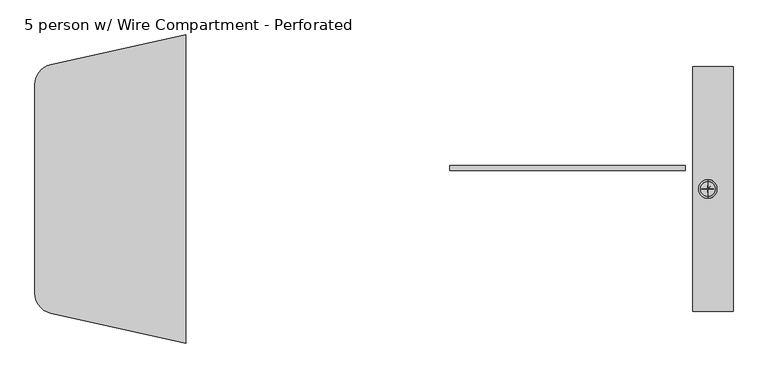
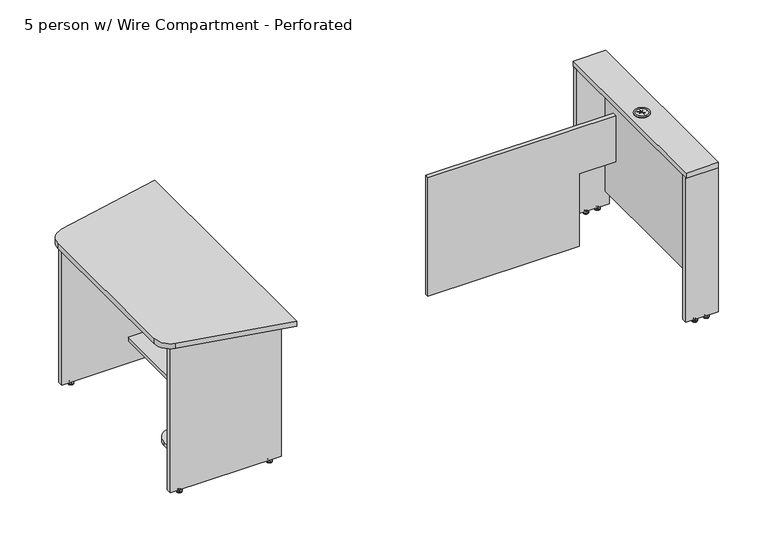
"""IFC4 building model written with IfcOpenShell, lengths in millimetres: furniture geometry, Nova Solutions - Collaboration Table - Boat_4-6 person : 5 person w/ Wire Compartment - Perforated."""

from ifc_helpers import new_model, si_unit, point, frame, frame_2d, origin, place, context, project, spatial, polyline, circle_curve, ellipse_curve, trimmed, segment, composite_curve, outline, extrude, source, transform, mapped, element, save
from ifc_brep_helpers import plane_surface, cylinder_surface, revolved_surface, advanced_brep


def furniture_5_person_w_wire_compartment_perforated_70c40dab(model_context):
    return source(origin(), model_context, "Body", "SolidModel", [
        extrude(outline(polyline([(430.1, 736.3), (430.1, 145.5), (-259.1, 145.5), (-259.1, 507.4), (-430.1, 507.4), (-430.1, 736.3), (430.1, 736.3)])), frame((-1069.3498676, 0.0, 0.0), z_axis=(1.0, 0.0, 0.0), x_axis=(0.0, 1.0, 0.0)), (0.0, 0.0, 1.0), 19.2),
        extrude(outline(composite_curve([segment(polyline([(-994.8498676, 430.1), (-994.8498676, -430.1), (-1438.0123676, -430.1), (-1438.0123676, -290.3)]), True, "CONTINUOUS"), segment(trimmed(circle_curve(frame_2d((-1361.8123676, -290.3)), 76.2), [point((-1438.0123676, -290.3))], [point((-1361.8123676, -214.1))], False, "CARTESIAN"), True, "CONTINUOUS"), segment(polyline([(-1361.8123676, -214.1), (-1267.3498676, -214.1)]), True, "CONTINUOUS"), segment(trimmed(circle_curve(frame_2d((-1267.3498676, -137.9)), 76.2), [point((-1267.3498676, -214.1))], [point((-1191.1498676, -137.9))], True, "CARTESIAN"), True, "CONTINUOUS"), segment(polyline([(-1191.1498676, -137.9), (-1191.1498676, 430.1), (-994.8498676, 430.1)]), True, "CONTINUOUS")], self_intersect=False)), frame((0.0, 0.0, 126.3), z_axis=(0.0, 0.0, 1.0), x_axis=(1.0, 0.0, 0.0)), (0.0, 0.0, 1.0), 19.2),
        advanced_brep(
        [(-1455.4358051, 449.6276506, 11.1125), (-1455.4358051, 442.95, 11.1125), (-1455.4358051, 436.2723494, 11.1125), (-1455.4358051, 449.6276506, 9.525), (-1455.4358051, 436.2723494, 9.525), (-1455.4358051, 454.8355135, 4.7748687), (-1455.4358051, 431.0644865, 4.7748687), (-1455.4358051, 455.6966506, 3.989419), (-1455.4358051, 430.2033494, 3.989419), (-1455.4358051, 455.6966506, 3.175), (-1455.4358051, 430.2033494, 3.175), (-1455.4358051, 454.8459119, 0.0), (-1455.4358051, 431.0540881, 0.0), (-1455.4358051, 442.95, 0.0)],
        [
            (0, 1),
            (1, 2),
            (2, 0, circle_curve(frame((-1455.4358051, 442.95, 11.1125), z_axis=(0.0, 0.0, 1.0), x_axis=(0.0, -1.0, 0.0)), 6.6776506)),
            (0, 2, circle_curve(frame((-1455.4358051, 442.95, 11.1125), z_axis=(0.0, 0.0, 1.0), x_axis=(0.0, -1.0, 0.0)), 6.6776506)),
            (3, 0),
            (2, 4),
            (4, 3, circle_curve(frame((-1455.4358051, 442.95, 9.525), z_axis=(0.0, 0.0, 1.0), x_axis=(0.0, -1.0, 0.0)), 6.6776506)),
            (3, 4, circle_curve(frame((-1455.4358051, 442.95, 9.525), z_axis=(0.0, 0.0, 1.0), x_axis=(0.0, -1.0, 0.0)), 6.6776506)),
            (5, 3, circle_curve(frame((-1455.4358051, 455.8820627, 11.1521822), z_axis=(-1.0, 0.0, 0.0), x_axis=(0.0, -1.0, 0.0)), 6.462615)),
            (4, 6, circle_curve(frame((-1455.4358051, 430.0179373, 11.1521822), z_axis=(-1.0, 0.0, 0.0), x_axis=(0.0, 1.0, 0.0)), 6.462615)),
            (6, 5, circle_curve(frame((-1455.4358051, 442.95, 4.7748687), z_axis=(0.0, 0.0, 1.0), x_axis=(0.0, -1.0, 0.0)), 11.8855135)),
            (5, 6, circle_curve(frame((-1455.4358051, 442.95, 4.7748687), z_axis=(0.0, 0.0, 1.0), x_axis=(0.0, -1.0, 0.0)), 11.8855135)),
            (7, 5, circle_curve(frame((-1455.4358051, 454.6624632, 3.7203591), z_axis=(1.0, 0.0, 0.0), x_axis=(0.0, -1.0, 0.0)), 1.0686145)),
            (6, 8, circle_curve(frame((-1455.4358051, 431.2375368, 3.7203591), z_axis=(1.0, 0.0, 0.0), x_axis=(0.0, 1.0, 0.0)), 1.0686145)),
            (8, 7, circle_curve(frame((-1455.4358051, 442.95, 3.989419), z_axis=(0.0, 0.0, 1.0), x_axis=(0.0, -1.0, 0.0)), 12.7466506)),
            (7, 8, circle_curve(frame((-1455.4358051, 442.95, 3.989419), z_axis=(0.0, 0.0, 1.0), x_axis=(0.0, -1.0, 0.0)), 12.7466506)),
            (9, 7),
            (8, 10),
            (10, 9, circle_curve(frame((-1455.4358051, 442.95, 3.175), z_axis=(0.0, 0.0, 1.0), x_axis=(0.0, -1.0, 0.0)), 12.7466506)),
            (9, 10, circle_curve(frame((-1455.4358051, 442.95, 3.175), z_axis=(0.0, 0.0, 1.0), x_axis=(0.0, -1.0, 0.0)), 12.7466506)),
            (11, 9),
            (10, 12),
            (12, 11, circle_curve(frame((-1455.4358051, 442.95, 0.0), z_axis=(0.0, 0.0, 1.0), x_axis=(0.0, -1.0, 0.0)), 11.8959119)),
            (11, 12, circle_curve(frame((-1455.4358051, 442.95, 0.0), z_axis=(0.0, 0.0, 1.0), x_axis=(0.0, -1.0, 0.0)), 11.8959119)),
            (13, 11),
            (12, 13),
        ],
        [
            plane_surface(frame((-1455.4358051, 442.95, 11.1125), z_axis=(0.0, 0.0, 1.0), x_axis=(0.0, -1.0, 0.0))),
            cylinder_surface(frame((-1455.4358051, 442.95, 43.2095994), z_axis=(0.0, 0.0, -1.0), x_axis=(0.0, -1.0, 0.0)), 6.6776506),
            revolved_surface(trimmed(ellipse_curve(frame((-1455.4358051, 430.0179373, 11.1521822), z_axis=(-1.0, 0.0, 0.0), x_axis=(0.0, 1.0, 0.0)), 6.462615, 6.462615), [point((-1455.4358051, 436.2723494, 9.525))], [point((-1455.4358051, 431.0644865, 4.7748687))], True, "CARTESIAN"), (-1455.4358051, 442.95, 43.2095994), (0.0, 0.0, -1.0)),
            revolved_surface(trimmed(ellipse_curve(frame((-1455.4358051, 431.2375368, 3.7203591), z_axis=(1.0, 0.0, 0.0), x_axis=(0.0, 1.0, 0.0)), 1.0686145, 1.0686145), [point((-1455.4358051, 431.0644865, 4.7748687))], [point((-1455.4358051, 430.2033494, 3.989419))], True, "CARTESIAN"), (-1455.4358051, 442.95, 43.2095994), (0.0, 0.0, -1.0)),
            cylinder_surface(frame((-1455.4358051, 442.95, 43.2095994), z_axis=(0.0, 0.0, -1.0), x_axis=(0.0, -1.0, 0.0)), 12.7466506),
            revolved_surface(polyline([(-1455.4358051, 430.2033494, 3.175), (-1455.4358051, 431.0540881, 0.0)]), (-1455.4358051, 442.95, 43.2095994), (0.0, 0.0, -1.0)),
            plane_surface(frame((-1455.4358051, 442.95, 0.0), z_axis=(0.0, 0.0, -1.0), x_axis=(0.0, -1.0, 0.0))),
        ],
        [
            (0, [[1, 2, 3]]),
            (0, [[-2, -1, 4]]),
            (1, [[5, -3, 6, 7]]),
            (1, [[-6, -4, -5, 8]]),
            (2, [[9, -7, 10, 11]]),
            (2, [[-10, -8, -9, 12]]),
            (3, [[13, -11, 14, 15]]),
            (3, [[-14, -12, -13, 16]]),
            (4, [[17, -15, 18, 19]]),
            (4, [[-18, -16, -17, 20]]),
            (5, [[21, -19, 22, 23]]),
            (5, [[-22, -20, -21, 24]]),
            (6, [[25, -23, 26]]),
            (6, [[-26, -24, -25]]),
        ],
    ),
        advanced_brep(
        [(-1031.1639301, 449.6276506, 11.1125), (-1031.1639301, 442.95, 11.1125), (-1031.1639301, 436.2723494, 11.1125), (-1031.1639301, 449.6276506, 9.525), (-1031.1639301, 436.2723494, 9.525), (-1031.1639301, 454.8355135, 4.7748687), (-1031.1639301, 431.0644865, 4.7748687), (-1031.1639301, 455.6966506, 3.989419), (-1031.1639301, 430.2033494, 3.989419), (-1031.1639301, 455.6966506, 3.175), (-1031.1639301, 430.2033494, 3.175), (-1031.1639301, 454.8459119, 0.0), (-1031.1639301, 431.0540881, 0.0), (-1031.1639301, 442.95, 0.0)],
        [
            (0, 1),
            (1, 2),
            (2, 0, circle_curve(frame((-1031.1639301, 442.95, 11.1125), z_axis=(0.0, 0.0, 1.0), x_axis=(0.0, -1.0, 0.0)), 6.6776506)),
            (0, 2, circle_curve(frame((-1031.1639301, 442.95, 11.1125), z_axis=(0.0, 0.0, 1.0), x_axis=(0.0, -1.0, 0.0)), 6.6776506)),
            (3, 0),
            (2, 4),
            (4, 3, circle_curve(frame((-1031.1639301, 442.95, 9.525), z_axis=(0.0, 0.0, 1.0), x_axis=(0.0, -1.0, 0.0)), 6.6776506)),
            (3, 4, circle_curve(frame((-1031.1639301, 442.95, 9.525), z_axis=(0.0, 0.0, 1.0), x_axis=(0.0, -1.0, 0.0)), 6.6776506)),
            (5, 3, circle_curve(frame((-1031.1639301, 455.8820627, 11.1521822), z_axis=(-1.0, 0.0, 0.0), x_axis=(0.0, -1.0, 0.0)), 6.462615)),
            (4, 6, circle_curve(frame((-1031.1639301, 430.0179373, 11.1521822), z_axis=(-1.0, 0.0, 0.0), x_axis=(0.0, 1.0, 0.0)), 6.462615)),
            (6, 5, circle_curve(frame((-1031.1639301, 442.95, 4.7748687), z_axis=(0.0, 0.0, 1.0), x_axis=(0.0, -1.0, 0.0)), 11.8855135)),
            (5, 6, circle_curve(frame((-1031.1639301, 442.95, 4.7748687), z_axis=(0.0, 0.0, 1.0), x_axis=(0.0, -1.0, 0.0)), 11.8855135)),
            (7, 5, circle_curve(frame((-1031.1639301, 454.6624632, 3.7203591), z_axis=(1.0, 0.0, 0.0), x_axis=(0.0, -1.0, 0.0)), 1.0686145)),
            (6, 8, circle_curve(frame((-1031.1639301, 431.2375368, 3.7203591), z_axis=(1.0, 0.0, 0.0), x_axis=(0.0, 1.0, 0.0)), 1.0686145)),
            (8, 7, circle_curve(frame((-1031.1639301, 442.95, 3.989419), z_axis=(0.0, 0.0, 1.0), x_axis=(0.0, -1.0, 0.0)), 12.7466506)),
            (7, 8, circle_curve(frame((-1031.1639301, 442.95, 3.989419), z_axis=(0.0, 0.0, 1.0), x_axis=(0.0, -1.0, 0.0)), 12.7466506)),
            (9, 7),
            (8, 10),
            (10, 9, circle_curve(frame((-1031.1639301, 442.95, 3.175), z_axis=(0.0, 0.0, 1.0), x_axis=(0.0, -1.0, 0.0)), 12.7466506)),
            (9, 10, circle_curve(frame((-1031.1639301, 442.95, 3.175), z_axis=(0.0, 0.0, 1.0), x_axis=(0.0, -1.0, 0.0)), 12.7466506)),
            (11, 9),
            (10, 12),
            (12, 11, circle_curve(frame((-1031.1639301, 442.95, 0.0), z_axis=(0.0, 0.0, 1.0), x_axis=(0.0, -1.0, 0.0)), 11.8959119)),
            (11, 12, circle_curve(frame((-1031.1639301, 442.95, 0.0), z_axis=(0.0, 0.0, 1.0), x_axis=(0.0, -1.0, 0.0)), 11.8959119)),
            (13, 11),
            (12, 13),
        ],
        [
            plane_surface(frame((-1031.1639301, 442.95, 11.1125), z_axis=(0.0, 0.0, 1.0), x_axis=(0.0, -1.0, 0.0))),
            cylinder_surface(frame((-1031.1639301, 442.95, 43.2095994), z_axis=(0.0, 0.0, -1.0), x_axis=(0.0, -1.0, 0.0)), 6.6776506),
            revolved_surface(trimmed(ellipse_curve(frame((-1031.1639301, 430.0179373, 11.1521822), z_axis=(-1.0, 0.0, 0.0), x_axis=(0.0, 1.0, 0.0)), 6.462615, 6.462615), [point((-1031.1639301, 436.2723494, 9.525))], [point((-1031.1639301, 431.0644865, 4.7748687))], True, "CARTESIAN"), (-1031.1639301, 442.95, 43.2095994), (0.0, 0.0, -1.0)),
            revolved_surface(trimmed(ellipse_curve(frame((-1031.1639301, 431.2375368, 3.7203591), z_axis=(1.0, 0.0, 0.0), x_axis=(0.0, 1.0, 0.0)), 1.0686145, 1.0686145), [point((-1031.1639301, 431.0644865, 4.7748687))], [point((-1031.1639301, 430.2033494, 3.989419))], True, "CARTESIAN"), (-1031.1639301, 442.95, 43.2095994), (0.0, 0.0, -1.0)),
            cylinder_surface(frame((-1031.1639301, 442.95, 43.2095994), z_axis=(0.0, 0.0, -1.0), x_axis=(0.0, -1.0, 0.0)), 12.7466506),
            revolved_surface(polyline([(-1031.1639301, 430.2033494, 3.175), (-1031.1639301, 431.0540881, 0.0)]), (-1031.1639301, 442.95, 43.2095994), (0.0, 0.0, -1.0)),
            plane_surface(frame((-1031.1639301, 442.95, 0.0), z_axis=(0.0, 0.0, -1.0), x_axis=(0.0, -1.0, 0.0))),
        ],
        [
            (0, [[1, 2, 3]]),
            (0, [[-2, -1, 4]]),
            (1, [[5, -3, 6, 7]]),
            (1, [[-6, -4, -5, 8]]),
            (2, [[9, -7, 10, 11]]),
            (2, [[-10, -8, -9, 12]]),
            (3, [[13, -11, 14, 15]]),
            (3, [[-14, -12, -13, 16]]),
            (4, [[17, -15, 18, 19]]),
            (4, [[-18, -16, -17, 20]]),
            (5, [[21, -19, 22, 23]]),
            (5, [[-22, -20, -21, 24]]),
            (6, [[25, -23, 26]]),
            (6, [[-26, -24, -25]]),
        ],
    ),
        extrude(outline(polyline([(-982.1498676, 455.8), (-982.1498676, 430.1), (-1504.4498676, 430.1), (-1504.4498676, 455.8), (-982.1498676, 455.8)])), frame((0.0, 0.0, 15.6), z_axis=(0.0, 0.0, 1.0), x_axis=(1.0, 0.0, 0.0)), (0.0, 0.0, 1.0), 720.7),
        advanced_brep(
        [(-1455.4358051, -449.6276506, 11.1125), (-1455.4358051, -436.2723494, 11.1125), (-1455.4358051, -442.95, 11.1125), (-1455.4358051, -449.6276506, 9.525), (-1455.4358051, -436.2723494, 9.525), (-1455.4358051, -454.8355135, 4.7748687), (-1455.4358051, -431.0644865, 4.7748687), (-1455.4358051, -455.6966506, 3.989419), (-1455.4358051, -430.2033494, 3.989419), (-1455.4358051, -455.6966506, 3.175), (-1455.4358051, -430.2033494, 3.175), (-1455.4358051, -454.8459119, 0.0), (-1455.4358051, -431.0540881, 0.0), (-1455.4358051, -442.95, 0.0)],
        [
            (0, 1, circle_curve(frame((-1455.4358051, -442.95, 11.1125), z_axis=(0.0, 0.0, 1.0), x_axis=(0.0, 1.0, 0.0)), 6.6776506)),
            (1, 2),
            (2, 0),
            (1, 0, circle_curve(frame((-1455.4358051, -442.95, 11.1125), z_axis=(0.0, 0.0, 1.0), x_axis=(0.0, 1.0, 0.0)), 6.6776506)),
            (3, 4, circle_curve(frame((-1455.4358051, -442.95, 9.525), z_axis=(0.0, 0.0, 1.0), x_axis=(0.0, 1.0, 0.0)), 6.6776506)),
            (4, 1),
            (0, 3),
            (4, 3, circle_curve(frame((-1455.4358051, -442.95, 9.525), z_axis=(0.0, 0.0, 1.0), x_axis=(0.0, 1.0, 0.0)), 6.6776506)),
            (5, 6, circle_curve(frame((-1455.4358051, -442.95, 4.7748687), z_axis=(0.0, 0.0, 1.0), x_axis=(0.0, 1.0, 0.0)), 11.8855135)),
            (6, 4, circle_curve(frame((-1455.4358051, -430.0179373, 11.1521822), z_axis=(-1.0, 0.0, 0.0), x_axis=(0.0, -1.0, 0.0)), 6.462615)),
            (3, 5, circle_curve(frame((-1455.4358051, -455.8820627, 11.1521822), z_axis=(-1.0, 0.0, 0.0), x_axis=(0.0, 1.0, 0.0)), 6.462615)),
            (6, 5, circle_curve(frame((-1455.4358051, -442.95, 4.7748687), z_axis=(0.0, 0.0, 1.0), x_axis=(0.0, 1.0, 0.0)), 11.8855135)),
            (7, 8, circle_curve(frame((-1455.4358051, -442.95, 3.989419), z_axis=(0.0, 0.0, 1.0), x_axis=(0.0, 1.0, 0.0)), 12.7466506)),
            (8, 6, circle_curve(frame((-1455.4358051, -431.2375368, 3.7203591), z_axis=(1.0, 0.0, 0.0), x_axis=(0.0, -1.0, 0.0)), 1.0686145)),
            (5, 7, circle_curve(frame((-1455.4358051, -454.6624632, 3.7203591), z_axis=(1.0, 0.0, 0.0), x_axis=(0.0, 1.0, 0.0)), 1.0686145)),
            (8, 7, circle_curve(frame((-1455.4358051, -442.95, 3.989419), z_axis=(0.0, 0.0, 1.0), x_axis=(0.0, 1.0, 0.0)), 12.7466506)),
            (9, 10, circle_curve(frame((-1455.4358051, -442.95, 3.175), z_axis=(0.0, 0.0, 1.0), x_axis=(0.0, 1.0, 0.0)), 12.7466506)),
            (10, 8),
            (7, 9),
            (10, 9, circle_curve(frame((-1455.4358051, -442.95, 3.175), z_axis=(0.0, 0.0, 1.0), x_axis=(0.0, 1.0, 0.0)), 12.7466506)),
            (11, 12, circle_curve(frame((-1455.4358051, -442.95, 0.0), z_axis=(0.0, 0.0, 1.0), x_axis=(0.0, 1.0, 0.0)), 11.8959119)),
            (12, 10),
            (9, 11),
            (12, 11, circle_curve(frame((-1455.4358051, -442.95, 0.0), z_axis=(0.0, 0.0, 1.0), x_axis=(0.0, 1.0, 0.0)), 11.8959119)),
            (13, 12),
            (11, 13),
        ],
        [
            plane_surface(frame((-1455.4358051, -442.95, 11.1125), z_axis=(0.0, 0.0, 1.0), x_axis=(0.0, 1.0, 0.0))),
            cylinder_surface(frame((-1455.4358051, -442.95, 43.2095994), z_axis=(0.0, 0.0, -1.0), x_axis=(0.0, 1.0, 0.0)), 6.6776506),
            revolved_surface(trimmed(ellipse_curve(frame((-1455.4358051, -430.0179373, 11.1521822), z_axis=(1.0, 0.0, 0.0), x_axis=(0.0, -1.0, 0.0)), 6.462615, 6.462615), [point((-1455.4358051, -436.2723494, 9.525))], [point((-1455.4358051, -431.0644865, 4.7748687))], True, "CARTESIAN"), (-1455.4358051, -442.95, 43.2095994), (0.0, 0.0, -1.0)),
            revolved_surface(trimmed(ellipse_curve(frame((-1455.4358051, -431.2375368, 3.7203591), z_axis=(-1.0, 0.0, 0.0), x_axis=(0.0, -1.0, 0.0)), 1.0686145, 1.0686145), [point((-1455.4358051, -431.0644865, 4.7748687))], [point((-1455.4358051, -430.2033494, 3.989419))], True, "CARTESIAN"), (-1455.4358051, -442.95, 43.2095994), (0.0, 0.0, -1.0)),
            cylinder_surface(frame((-1455.4358051, -442.95, 43.2095994), z_axis=(0.0, 0.0, -1.0), x_axis=(0.0, 1.0, 0.0)), 12.7466506),
            revolved_surface(polyline([(-1455.4358051, -430.2033494, 3.175), (-1455.4358051, -431.0540881, 0.0)]), (-1455.4358051, -442.95, 43.2095994), (0.0, 0.0, -1.0)),
            plane_surface(frame((-1455.4358051, -442.95, 0.0), z_axis=(0.0, 0.0, -1.0), x_axis=(0.0, 1.0, 0.0))),
        ],
        [
            (0, [[1, 2, 3]]),
            (0, [[4, -3, -2]]),
            (1, [[5, 6, -1, 7]]),
            (1, [[8, -7, -4, -6]]),
            (2, [[9, 10, -5, 11]]),
            (2, [[12, -11, -8, -10]]),
            (3, [[13, 14, -9, 15]]),
            (3, [[16, -15, -12, -14]]),
            (4, [[17, 18, -13, 19]]),
            (4, [[20, -19, -16, -18]]),
            (5, [[21, 22, -17, 23]]),
            (5, [[24, -23, -20, -22]]),
            (6, [[25, -21, 26]]),
            (6, [[-26, -24, -25]]),
        ],
    ),
        advanced_brep(
        [(-1031.1639301, -449.6276506, 11.1125), (-1031.1639301, -436.2723494, 11.1125), (-1031.1639301, -442.95, 11.1125), (-1031.1639301, -449.6276506, 9.525), (-1031.1639301, -436.2723494, 9.525), (-1031.1639301, -454.8355135, 4.7748687), (-1031.1639301, -431.0644865, 4.7748687), (-1031.1639301, -455.6966506, 3.989419), (-1031.1639301, -430.2033494, 3.989419), (-1031.1639301, -455.6966506, 3.175), (-1031.1639301, -430.2033494, 3.175), (-1031.1639301, -454.8459119, 0.0), (-1031.1639301, -431.0540881, 0.0), (-1031.1639301, -442.95, 0.0)],
        [
            (0, 1, circle_curve(frame((-1031.1639301, -442.95, 11.1125), z_axis=(0.0, 0.0, 1.0), x_axis=(0.0, 1.0, 0.0)), 6.6776506)),
            (1, 2),
            (2, 0),
            (1, 0, circle_curve(frame((-1031.1639301, -442.95, 11.1125), z_axis=(0.0, 0.0, 1.0), x_axis=(0.0, 1.0, 0.0)), 6.6776506)),
            (3, 4, circle_curve(frame((-1031.1639301, -442.95, 9.525), z_axis=(0.0, 0.0, 1.0), x_axis=(0.0, 1.0, 0.0)), 6.6776506)),
            (4, 1),
            (0, 3),
            (4, 3, circle_curve(frame((-1031.1639301, -442.95, 9.525), z_axis=(0.0, 0.0, 1.0), x_axis=(0.0, 1.0, 0.0)), 6.6776506)),
            (5, 6, circle_curve(frame((-1031.1639301, -442.95, 4.7748687), z_axis=(0.0, 0.0, 1.0), x_axis=(0.0, 1.0, 0.0)), 11.8855135)),
            (6, 4, circle_curve(frame((-1031.1639301, -430.0179373, 11.1521822), z_axis=(-1.0, 0.0, 0.0), x_axis=(0.0, -1.0, 0.0)), 6.462615)),
            (3, 5, circle_curve(frame((-1031.1639301, -455.8820627, 11.1521822), z_axis=(-1.0, 0.0, 0.0), x_axis=(0.0, 1.0, 0.0)), 6.462615)),
            (6, 5, circle_curve(frame((-1031.1639301, -442.95, 4.7748687), z_axis=(0.0, 0.0, 1.0), x_axis=(0.0, 1.0, 0.0)), 11.8855135)),
            (7, 8, circle_curve(frame((-1031.1639301, -442.95, 3.989419), z_axis=(0.0, 0.0, 1.0), x_axis=(0.0, 1.0, 0.0)), 12.7466506)),
            (8, 6, circle_curve(frame((-1031.1639301, -431.2375368, 3.7203591), z_axis=(1.0, 0.0, 0.0), x_axis=(0.0, -1.0, 0.0)), 1.0686145)),
            (5, 7, circle_curve(frame((-1031.1639301, -454.6624632, 3.7203591), z_axis=(1.0, 0.0, 0.0), x_axis=(0.0, 1.0, 0.0)), 1.0686145)),
            (8, 7, circle_curve(frame((-1031.1639301, -442.95, 3.989419), z_axis=(0.0, 0.0, 1.0), x_axis=(0.0, 1.0, 0.0)), 12.7466506)),
            (9, 10, circle_curve(frame((-1031.1639301, -442.95, 3.175), z_axis=(0.0, 0.0, 1.0), x_axis=(0.0, 1.0, 0.0)), 12.7466506)),
            (10, 8),
            (7, 9),
            (10, 9, circle_curve(frame((-1031.1639301, -442.95, 3.175), z_axis=(0.0, 0.0, 1.0), x_axis=(0.0, 1.0, 0.0)), 12.7466506)),
            (11, 12, circle_curve(frame((-1031.1639301, -442.95, 0.0), z_axis=(0.0, 0.0, 1.0), x_axis=(0.0, 1.0, 0.0)), 11.8959119)),
            (12, 10),
            (9, 11),
            (12, 11, circle_curve(frame((-1031.1639301, -442.95, 0.0), z_axis=(0.0, 0.0, 1.0), x_axis=(0.0, 1.0, 0.0)), 11.8959119)),
            (13, 12),
            (11, 13),
        ],
        [
            plane_surface(frame((-1031.1639301, -442.95, 11.1125), z_axis=(0.0, 0.0, 1.0), x_axis=(0.0, 1.0, 0.0))),
            cylinder_surface(frame((-1031.1639301, -442.95, 43.2095994), z_axis=(0.0, 0.0, -1.0), x_axis=(0.0, 1.0, 0.0)), 6.6776506),
            revolved_surface(trimmed(ellipse_curve(frame((-1031.1639301, -430.0179373, 11.1521822), z_axis=(1.0, 0.0, 0.0), x_axis=(0.0, -1.0, 0.0)), 6.462615, 6.462615), [point((-1031.1639301, -436.2723494, 9.525))], [point((-1031.1639301, -431.0644865, 4.7748687))], True, "CARTESIAN"), (-1031.1639301, -442.95, 43.2095994), (0.0, 0.0, -1.0)),
            revolved_surface(trimmed(ellipse_curve(frame((-1031.1639301, -431.2375368, 3.7203591), z_axis=(-1.0, 0.0, 0.0), x_axis=(0.0, -1.0, 0.0)), 1.0686145, 1.0686145), [point((-1031.1639301, -431.0644865, 4.7748687))], [point((-1031.1639301, -430.2033494, 3.989419))], True, "CARTESIAN"), (-1031.1639301, -442.95, 43.2095994), (0.0, 0.0, -1.0)),
            cylinder_surface(frame((-1031.1639301, -442.95, 43.2095994), z_axis=(0.0, 0.0, -1.0), x_axis=(0.0, 1.0, 0.0)), 12.7466506),
            revolved_surface(polyline([(-1031.1639301, -430.2033494, 3.175), (-1031.1639301, -431.0540881, 0.0)]), (-1031.1639301, -442.95, 43.2095994), (0.0, 0.0, -1.0)),
            plane_surface(frame((-1031.1639301, -442.95, 0.0), z_axis=(0.0, 0.0, -1.0), x_axis=(0.0, 1.0, 0.0))),
        ],
        [
            (0, [[1, 2, 3]]),
            (0, [[4, -3, -2]]),
            (1, [[5, 6, -1, 7]]),
            (1, [[8, -7, -4, -6]]),
            (2, [[9, 10, -5, 11]]),
            (2, [[12, -11, -8, -10]]),
            (3, [[13, 14, -9, 15]]),
            (3, [[16, -15, -12, -14]]),
            (4, [[17, 18, -13, 19]]),
            (4, [[20, -19, -16, -18]]),
            (5, [[21, 22, -17, 23]]),
            (5, [[24, -23, -20, -22]]),
            (6, [[25, -21, 26]]),
            (6, [[-26, -24, -25]]),
        ],
    ),
        extrude(outline(polyline([(-982.1498676, -455.8), (-1504.4498676, -455.8), (-1504.4498676, -430.1), (-982.1498676, -430.1), (-982.1498676, -455.8)])), frame((0.0, 0.0, 15.6), z_axis=(0.0, 0.0, 1.0), x_axis=(1.0, 0.0, 0.0)), (0.0, 0.0, 1.0), 720.7),
        extrude(outline(composite_curve([segment(polyline([(-979.2498676, 579.5), (-979.2498676, -579.5), (-1484.9157179, -467.3965799)]), True, "CONTINUOUS"), segment(trimmed(circle_curve(frame_2d((-1468.2498676, -392.2217874)), 77.0), [point((-1484.9157179, -467.3965799))], [point((-1545.2498676, -392.2217874))], False, "CARTESIAN"), True, "CONTINUOUS"), segment(polyline([(-1545.2498676, -392.2217874), (-1545.2498676, 392.2217874)]), True, "CONTINUOUS"), segment(trimmed(circle_curve(frame_2d((-1468.2498676, 392.2217874)), 77.0), [point((-1545.2498676, 392.2217874))], [point((-1484.9157179, 467.3965799))], False, "CARTESIAN"), True, "CONTINUOUS"), segment(polyline([(-1484.9157179, 467.3965799), (-979.2498676, 579.5)]), True, "CONTINUOUS")], self_intersect=False)), frame((0.0, 0.0, 736.3), z_axis=(0.0, 0.0, 1.0), x_axis=(1.0, 0.0, 0.0)), (0.0, 0.0, 1.0), 25.7),
        advanced_brep(
        [(981.65, -34.925, 762.0), (981.65, 34.925, 762.0), (981.65, 24.6435157, 762.0), (980.503542, 2.7677944, 762.0), (964.2244029, 17.4255971, 762.0), (978.8822056, 1.146458, 762.0), (957.0064843, 0.0, 762.0), (978.8822056, -1.146458, 762.0), (964.2244029, -17.4255971, 762.0), (980.503542, -2.7677944, 762.0), (981.65, -24.6435157, 762.0), (982.796458, -2.7677944, 762.0), (999.0755971, -17.4255971, 762.0), (984.4177944, -1.146458, 762.0), (1006.2935157, 0.0, 762.0), (984.4177944, 1.146458, 762.0), (999.0755971, 17.4255971, 762.0), (982.796458, 2.7677944, 762.0), (981.65, -34.925, 763.3787817), (981.65, 34.925, 763.3787817), (981.65, -28.7119174, 765.175), (981.65, 28.7119174, 765.175), (981.65, -24.6435157, 765.175), (980.503542, -2.7677944, 765.175), (964.2244029, -17.4255971, 765.175), (978.8822056, -1.146458, 765.175), (957.0064843, 0.0, 765.175), (978.8822056, 1.146458, 765.175), (964.2244029, 17.4255971, 765.175), (980.503542, 2.7677944, 765.175), (981.65, 24.6435157, 765.175), (982.796458, 2.7677944, 765.175), (999.0755971, 17.4255971, 765.175), (984.4177944, 1.146458, 765.175), (1006.2935157, 0.0, 765.175), (984.4177944, -1.146458, 765.175), (999.0755971, -17.4255971, 765.175), (982.796458, -2.7677944, 765.175)],
        [
            (0, 1, circle_curve(frame((981.65, 0.0, 762.0), z_axis=(0.0, 0.0, -1.0), x_axis=(0.0, 1.0, 0.0)), 34.925)),
            (1, 2),
            (2, 3),
            (3, 4),
            (4, 5),
            (5, 6),
            (6, 7),
            (7, 8),
            (8, 9),
            (9, 10),
            (10, 0),
            (1, 0, circle_curve(frame((981.65, 0.0, 762.0), z_axis=(0.0, 0.0, -1.0), x_axis=(0.0, 1.0, 0.0)), 34.925)),
            (10, 11),
            (11, 12),
            (12, 13),
            (13, 14),
            (14, 15),
            (15, 16),
            (16, 17),
            (17, 2),
            (0, 18),
            (18, 19, circle_curve(frame((981.65, 0.0, 763.3787817), z_axis=(0.0, 0.0, -1.0), x_axis=(0.0, 1.0, 0.0)), 34.925)),
            (19, 1),
            (19, 18, circle_curve(frame((981.65, 0.0, 763.3787817), z_axis=(0.0, 0.0, -1.0), x_axis=(0.0, 1.0, 0.0)), 34.925)),
            (18, 20, circle_curve(frame((981.65, -31.558813, 763.3787817), z_axis=(-1.0, 0.0, 0.0), x_axis=(0.0, -1.0, 0.0)), 3.366187)),
            (20, 21, circle_curve(frame((981.65, 0.0, 765.175), z_axis=(0.0, 0.0, -1.0), x_axis=(0.0, 1.0, 0.0)), 28.7119174)),
            (21, 19, circle_curve(frame((981.65, 31.558813, 763.3787817), z_axis=(-1.0, 0.0, 0.0), x_axis=(0.0, 1.0, 0.0)), 3.366187)),
            (21, 20, circle_curve(frame((981.65, 0.0, 765.175), z_axis=(0.0, 0.0, -1.0), x_axis=(0.0, 1.0, 0.0)), 28.7119174)),
            (20, 22),
            (22, 23),
            (23, 24),
            (24, 25),
            (25, 26),
            (26, 27),
            (27, 28),
            (28, 29),
            (29, 30),
            (30, 21),
            (30, 31),
            (31, 32),
            (32, 33),
            (33, 34),
            (34, 35),
            (35, 36),
            (36, 37),
            (37, 22),
            (26, 6),
            (5, 27),
            (25, 7),
            (24, 8),
            (23, 9),
            (22, 10),
            (37, 11),
            (36, 12),
            (35, 13),
            (34, 14),
            (33, 15),
            (32, 16),
            (31, 17),
            (30, 2),
            (29, 3),
            (28, 4),
        ],
        [
            plane_surface(frame((981.65, 0.0, 762.0), z_axis=(0.0, 0.0, -1.0), x_axis=(0.0, 1.0, 0.0))),
            cylinder_surface(frame((981.65, 0.0, 850.9), z_axis=(0.0, 0.0, 1.0), x_axis=(0.0, 1.0, 0.0)), 34.925),
            revolved_surface(trimmed(ellipse_curve(frame((981.65, 31.558813, 763.3787817), z_axis=(1.0, 0.0, 0.0), x_axis=(0.0, 1.0, 0.0)), 3.366187, 3.366187), [point((981.65, 34.925, 763.3787817))], [point((981.65, 28.7119174, 765.175))], True, "CARTESIAN"), (981.65, 0.0, 850.9), (0.0, 0.0, 1.0)),
            plane_surface(frame((981.65, 0.0, 765.175), z_axis=(0.0, 0.0, 1.0), x_axis=(0.0, 1.0, 0.0))),
            plane_surface(frame((981.65, 1.2915119, 787.4), z_axis=(0.05233595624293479, -0.9986295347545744, 0.0), x_axis=(0.0, 0.0, -1.0))),
            plane_surface(frame((957.0064843, 0.0, 787.4), z_axis=(0.052335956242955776, 0.9986295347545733, 0.0), x_axis=(0.0, 0.0, -1.0))),
            plane_surface(frame((980.7367632, 0.9132368, 787.4), z_axis=(0.7431448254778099, -0.6691306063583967, 0.0), x_axis=(0.0, 0.0, -1.0))),
            plane_surface(frame((964.2244029, -17.4255971, 787.4), z_axis=(-0.6691306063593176, 0.7431448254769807, 0.0), x_axis=(0.0, 0.0, -1.0))),
            plane_surface(frame((980.3584881, 0.0, 787.4), z_axis=(0.9986295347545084, 0.05233595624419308, 0.0), x_axis=(0.0, 0.0, -1.0))),
            plane_surface(frame((981.65, -24.6435157, 787.4), z_axis=(-0.9986295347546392, 0.05233595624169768, 0.0), x_axis=(0.0, 0.0, -1.0))),
            plane_surface(frame((980.7367632, -0.9132368, 787.4), z_axis=(0.6691306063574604, 0.743144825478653, 0.0), x_axis=(0.0, 0.0, -1.0))),
            plane_surface(frame((999.0755971, -17.4255971, 787.4), z_axis=(-0.7431448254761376, -0.669130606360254, 0.0), x_axis=(0.0, 0.0, -1.0))),
            plane_surface(frame((981.65, -1.2915119, 787.4), z_axis=(-0.052335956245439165, 0.9986295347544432, 0.0), x_axis=(0.0, 0.0, -1.0))),
            plane_surface(frame((1006.2935157, 0.0, 787.4), z_axis=(-0.05233595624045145, -0.9986295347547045, 0.0), x_axis=(0.0, 0.0, -1.0))),
            plane_surface(frame((982.5632368, -0.9132368, 787.4), z_axis=(-0.7431448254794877, 0.6691306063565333, 0.0), x_axis=(0.0, 0.0, -1.0))),
            plane_surface(frame((999.0755971, 17.4255971, 787.4), z_axis=(0.669130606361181, -0.7431448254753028, 0.0), x_axis=(0.0, 0.0, -1.0))),
            plane_surface(frame((982.9415119, 0.0, 787.4), z_axis=(-0.9986295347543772, -0.05233595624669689, 0.0), x_axis=(0.0, 0.0, -1.0))),
            plane_surface(frame((981.65, 24.6435157, 787.4), z_axis=(0.9986295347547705, -0.05233595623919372, 0.0), x_axis=(0.0, 0.0, -1.0))),
            plane_surface(frame((982.5632368, 0.9132368, 787.4), z_axis=(-0.6691306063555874, -0.7431448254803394, 0.0), x_axis=(0.0, 0.0, -1.0))),
            plane_surface(frame((964.2244029, 17.4255971, 787.4), z_axis=(0.743144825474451, 0.669130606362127, 0.0), x_axis=(0.0, 0.0, -1.0))),
        ],
        [
            (0, [[1, 2, 3, 4, 5, 6, 7, 8, 9, 10, 11]]),
            (0, [[12, -11, 13, 14, 15, 16, 17, 18, 19, 20, -2]]),
            (1, [[-1, 21, 22, 23]]),
            (1, [[-12, -23, 24, -21]]),
            (2, [[-22, 25, 26, 27]]),
            (2, [[-24, -27, 28, -25]]),
            (3, [[-26, 29, 30, 31, 32, 33, 34, 35, 36, 37, 38]]),
            (3, [[-28, -38, 39, 40, 41, 42, 43, 44, 45, 46, -29]]),
            (4, [[47, -6, 48, -34]]),
            (5, [[-47, -33, 49, -7]]),
            (6, [[50, -8, -49, -32]]),
            (7, [[-50, -31, 51, -9]]),
            (8, [[52, -10, -51, -30]]),
            (9, [[-52, -46, 53, -13]]),
            (10, [[54, -14, -53, -45]]),
            (11, [[-54, -44, 55, -15]]),
            (12, [[56, -16, -55, -43]]),
            (13, [[-56, -42, 57, -17]]),
            (14, [[58, -18, -57, -41]]),
            (15, [[-58, -40, 59, -19]]),
            (16, [[60, -20, -59, -39]]),
            (17, [[-60, -37, 61, -3]]),
            (18, [[62, -4, -61, -36]]),
            (19, [[-62, -35, -48, -5]]),
        ],
    ),
        advanced_brep(
        [(1027.6359375, 451.0276506, 11.1125), (1027.6359375, 437.6723494, 11.1125), (1027.6359375, 444.35, 11.1125), (1027.6359375, 451.0276506, 9.525), (1027.6359375, 437.6723494, 9.525), (1027.6359375, 456.2355135, 4.7748687), (1027.6359375, 432.4644865, 4.7748687), (1027.6359375, 457.0966506, 3.989419), (1027.6359375, 431.6033494, 3.989419), (1027.6359375, 457.0966506, 3.175), (1027.6359375, 431.6033494, 3.175), (1027.6359375, 456.2459119, 0.0), (1027.6359375, 432.4540881, 0.0), (1027.6359375, 444.35, 0.0)],
        [
            (0, 1, circle_curve(frame((1027.6359375, 444.35, 11.1125), z_axis=(0.0, 0.0, 1.0), x_axis=(0.0, -1.0, 0.0)), 6.6776506)),
            (1, 2),
            (2, 0),
            (1, 0, circle_curve(frame((1027.6359375, 444.35, 11.1125), z_axis=(0.0, 0.0, 1.0), x_axis=(0.0, -1.0, 0.0)), 6.6776506)),
            (3, 4, circle_curve(frame((1027.6359375, 444.35, 9.525), z_axis=(0.0, 0.0, 1.0), x_axis=(0.0, -1.0, 0.0)), 6.6776506)),
            (4, 1),
            (0, 3),
            (4, 3, circle_curve(frame((1027.6359375, 444.35, 9.525), z_axis=(0.0, 0.0, 1.0), x_axis=(0.0, -1.0, 0.0)), 6.6776506)),
            (5, 6, circle_curve(frame((1027.6359375, 444.35, 4.7748687), z_axis=(0.0, 0.0, 1.0), x_axis=(0.0, -1.0, 0.0)), 11.8855135)),
            (6, 4, circle_curve(frame((1027.6359375, 431.4179373, 11.1521822), z_axis=(1.0, 0.0, 0.0), x_axis=(0.0, 1.0, 0.0)), 6.462615)),
            (3, 5, circle_curve(frame((1027.6359375, 457.2820627, 11.1521822), z_axis=(1.0, 0.0, 0.0), x_axis=(0.0, -1.0, 0.0)), 6.462615)),
            (6, 5, circle_curve(frame((1027.6359375, 444.35, 4.7748687), z_axis=(0.0, 0.0, 1.0), x_axis=(0.0, -1.0, 0.0)), 11.8855135)),
            (7, 8, circle_curve(frame((1027.6359375, 444.35, 3.989419), z_axis=(0.0, 0.0, 1.0), x_axis=(0.0, -1.0, 0.0)), 12.7466506)),
            (8, 6, circle_curve(frame((1027.6359375, 432.6375368, 3.7203591), z_axis=(-1.0, 0.0, 0.0), x_axis=(0.0, 1.0, 0.0)), 1.0686145)),
            (5, 7, circle_curve(frame((1027.6359375, 456.0624632, 3.7203591), z_axis=(-1.0, 0.0, 0.0), x_axis=(0.0, -1.0, 0.0)), 1.0686145)),
            (8, 7, circle_curve(frame((1027.6359375, 444.35, 3.989419), z_axis=(0.0, 0.0, 1.0), x_axis=(0.0, -1.0, 0.0)), 12.7466506)),
            (9, 10, circle_curve(frame((1027.6359375, 444.35, 3.175), z_axis=(0.0, 0.0, 1.0), x_axis=(0.0, -1.0, 0.0)), 12.7466506)),
            (10, 8),
            (7, 9),
            (10, 9, circle_curve(frame((1027.6359375, 444.35, 3.175), z_axis=(0.0, 0.0, 1.0), x_axis=(0.0, -1.0, 0.0)), 12.7466506)),
            (11, 12, circle_curve(frame((1027.6359375, 444.35, 0.0), z_axis=(0.0, 0.0, 1.0), x_axis=(0.0, -1.0, 0.0)), 11.8959119)),
            (12, 10),
            (9, 11),
            (12, 11, circle_curve(frame((1027.6359375, 444.35, 0.0), z_axis=(0.0, 0.0, 1.0), x_axis=(0.0, -1.0, 0.0)), 11.8959119)),
            (13, 12),
            (11, 13),
        ],
        [
            plane_surface(frame((1027.6359375, 444.35, 11.1125), z_axis=(0.0, 0.0, 1.0), x_axis=(0.0, -1.0, 0.0))),
            cylinder_surface(frame((1027.6359375, 444.35, 43.2095994), z_axis=(0.0, 0.0, -1.0), x_axis=(0.0, -1.0, 0.0)), 6.6776506),
            revolved_surface(trimmed(ellipse_curve(frame((1027.6359375, 431.4179373, 11.1521822), z_axis=(-1.0, 0.0, 0.0), x_axis=(0.0, 1.0, 0.0)), 6.462615, 6.462615), [point((1027.6359375, 437.6723494, 9.525))], [point((1027.6359375, 432.4644865, 4.7748687))], True, "CARTESIAN"), (1027.6359375, 444.35, 43.2095994), (0.0, 0.0, -1.0)),
            revolved_surface(trimmed(ellipse_curve(frame((1027.6359375, 432.6375368, 3.7203591), z_axis=(1.0, 0.0, 0.0), x_axis=(0.0, 1.0, 0.0)), 1.0686145, 1.0686145), [point((1027.6359375, 432.4644865, 4.7748687))], [point((1027.6359375, 431.6033494, 3.989419))], True, "CARTESIAN"), (1027.6359375, 444.35, 43.2095994), (0.0, 0.0, -1.0)),
            cylinder_surface(frame((1027.6359375, 444.35, 43.2095994), z_axis=(0.0, 0.0, -1.0), x_axis=(0.0, -1.0, 0.0)), 12.7466506),
            revolved_surface(polyline([(1027.6359375, 431.6033494, 3.175), (1027.6359375, 432.4540881, 0.0)]), (1027.6359375, 444.35, 43.2095994), (0.0, 0.0, -1.0)),
            plane_surface(frame((1027.6359375, 444.35, 0.0), z_axis=(0.0, 0.0, -1.0), x_axis=(0.0, -1.0, 0.0))),
        ],
        [
            (0, [[1, 2, 3]]),
            (0, [[4, -3, -2]]),
            (1, [[5, 6, -1, 7]]),
            (1, [[8, -7, -4, -6]]),
            (2, [[9, 10, -5, 11]]),
            (2, [[12, -11, -8, -10]]),
            (3, [[13, 14, -9, 15]]),
            (3, [[16, -15, -12, -14]]),
            (4, [[17, 18, -13, 19]]),
            (4, [[20, -19, -16, -18]]),
            (5, [[21, 22, -17, 23]]),
            (5, [[24, -23, -20, -22]]),
            (6, [[25, -21, 26]]),
            (6, [[-26, -24, -25]]),
        ],
    ),
        advanced_brep(
        [(973.2640625, 451.0276506, 11.1125), (973.2640625, 437.6723494, 11.1125), (973.2640625, 444.35, 11.1125), (973.2640625, 451.0276506, 9.525), (973.2640625, 437.6723494, 9.525), (973.2640625, 456.2355135, 4.7748687), (973.2640625, 432.4644865, 4.7748687), (973.2640625, 457.0966506, 3.989419), (973.2640625, 431.6033494, 3.989419), (973.2640625, 457.0966506, 3.175), (973.2640625, 431.6033494, 3.175), (973.2640625, 456.2459119, 0.0), (973.2640625, 432.4540881, 0.0), (973.2640625, 444.35, 0.0)],
        [
            (0, 1, circle_curve(frame((973.2640625, 444.35, 11.1125), z_axis=(0.0, 0.0, 1.0), x_axis=(0.0, -1.0, 0.0)), 6.6776506)),
            (1, 2),
            (2, 0),
            (1, 0, circle_curve(frame((973.2640625, 444.35, 11.1125), z_axis=(0.0, 0.0, 1.0), x_axis=(0.0, -1.0, 0.0)), 6.6776506)),
            (3, 4, circle_curve(frame((973.2640625, 444.35, 9.525), z_axis=(0.0, 0.0, 1.0), x_axis=(0.0, -1.0, 0.0)), 6.6776506)),
            (4, 1),
            (0, 3),
            (4, 3, circle_curve(frame((973.2640625, 444.35, 9.525), z_axis=(0.0, 0.0, 1.0), x_axis=(0.0, -1.0, 0.0)), 6.6776506)),
            (5, 6, circle_curve(frame((973.2640625, 444.35, 4.7748687), z_axis=(0.0, 0.0, 1.0), x_axis=(0.0, -1.0, 0.0)), 11.8855135)),
            (6, 4, circle_curve(frame((973.2640625, 431.4179373, 11.1521822), z_axis=(1.0, 0.0, 0.0), x_axis=(0.0, 1.0, 0.0)), 6.462615)),
            (3, 5, circle_curve(frame((973.2640625, 457.2820627, 11.1521822), z_axis=(1.0, 0.0, 0.0), x_axis=(0.0, -1.0, 0.0)), 6.462615)),
            (6, 5, circle_curve(frame((973.2640625, 444.35, 4.7748687), z_axis=(0.0, 0.0, 1.0), x_axis=(0.0, -1.0, 0.0)), 11.8855135)),
            (7, 8, circle_curve(frame((973.2640625, 444.35, 3.989419), z_axis=(0.0, 0.0, 1.0), x_axis=(0.0, -1.0, 0.0)), 12.7466506)),
            (8, 6, circle_curve(frame((973.2640625, 432.6375368, 3.7203591), z_axis=(-1.0, 0.0, 0.0), x_axis=(0.0, 1.0, 0.0)), 1.0686145)),
            (5, 7, circle_curve(frame((973.2640625, 456.0624632, 3.7203591), z_axis=(-1.0, 0.0, 0.0), x_axis=(0.0, -1.0, 0.0)), 1.0686145)),
            (8, 7, circle_curve(frame((973.2640625, 444.35, 3.989419), z_axis=(0.0, 0.0, 1.0), x_axis=(0.0, -1.0, 0.0)), 12.7466506)),
            (9, 10, circle_curve(frame((973.2640625, 444.35, 3.175), z_axis=(0.0, 0.0, 1.0), x_axis=(0.0, -1.0, 0.0)), 12.7466506)),
            (10, 8),
            (7, 9),
            (10, 9, circle_curve(frame((973.2640625, 444.35, 3.175), z_axis=(0.0, 0.0, 1.0), x_axis=(0.0, -1.0, 0.0)), 12.7466506)),
            (11, 12, circle_curve(frame((973.2640625, 444.35, 0.0), z_axis=(0.0, 0.0, 1.0), x_axis=(0.0, -1.0, 0.0)), 11.8959119)),
            (12, 10),
            (9, 11),
            (12, 11, circle_curve(frame((973.2640625, 444.35, 0.0), z_axis=(0.0, 0.0, 1.0), x_axis=(0.0, -1.0, 0.0)), 11.8959119)),
            (13, 12),
            (11, 13),
        ],
        [
            plane_surface(frame((973.2640625, 444.35, 11.1125), z_axis=(0.0, 0.0, 1.0), x_axis=(0.0, -1.0, 0.0))),
            cylinder_surface(frame((973.2640625, 444.35, 43.2095994), z_axis=(0.0, 0.0, -1.0), x_axis=(0.0, -1.0, 0.0)), 6.6776506),
            revolved_surface(trimmed(ellipse_curve(frame((973.2640625, 431.4179373, 11.1521822), z_axis=(-1.0, 0.0, 0.0), x_axis=(0.0, 1.0, 0.0)), 6.462615, 6.462615), [point((973.2640625, 437.6723494, 9.525))], [point((973.2640625, 432.4644865, 4.7748687))], True, "CARTESIAN"), (973.2640625, 444.35, 43.2095994), (0.0, 0.0, -1.0)),
            revolved_surface(trimmed(ellipse_curve(frame((973.2640625, 432.6375368, 3.7203591), z_axis=(1.0, 0.0, 0.0), x_axis=(0.0, 1.0, 0.0)), 1.0686145, 1.0686145), [point((973.2640625, 432.4644865, 4.7748687))], [point((973.2640625, 431.6033494, 3.989419))], True, "CARTESIAN"), (973.2640625, 444.35, 43.2095994), (0.0, 0.0, -1.0)),
            cylinder_surface(frame((973.2640625, 444.35, 43.2095994), z_axis=(0.0, 0.0, -1.0), x_axis=(0.0, -1.0, 0.0)), 12.7466506),
            revolved_surface(polyline([(973.2640625, 431.6033494, 3.175), (973.2640625, 432.4540881, 0.0)]), (973.2640625, 444.35, 43.2095994), (0.0, 0.0, -1.0)),
            plane_surface(frame((973.2640625, 444.35, 0.0), z_axis=(0.0, 0.0, -1.0), x_axis=(0.0, -1.0, 0.0))),
        ],
        [
            (0, [[1, 2, 3]]),
            (0, [[4, -3, -2]]),
            (1, [[5, 6, -1, 7]]),
            (1, [[8, -7, -4, -6]]),
            (2, [[9, 10, -5, 11]]),
            (2, [[12, -11, -8, -10]]),
            (3, [[13, 14, -9, 15]]),
            (3, [[16, -15, -12, -14]]),
            (4, [[17, 18, -13, 19]]),
            (4, [[20, -19, -16, -18]]),
            (5, [[21, 22, -17, 23]]),
            (5, [[24, -23, -20, -22]]),
            (6, [[25, -21, 26]]),
            (6, [[-26, -24, -25]]),
        ],
    ),
        extrude(outline(polyline([(924.25, 457.2), (1076.65, 457.2), (1076.65, 431.5), (924.25, 431.5), (924.25, 457.2)])), frame((0.0, 0.0, 15.6), z_axis=(0.0, 0.0, 1.0), x_axis=(1.0, 0.0, 0.0)), (0.0, 0.0, 1.0), 720.7),
        advanced_brep(
        [(1027.6359375, -451.0276506, 11.1125), (1027.6359375, -444.35, 11.1125), (1027.6359375, -437.6723494, 11.1125), (1027.6359375, -451.0276506, 9.525), (1027.6359375, -437.6723494, 9.525), (1027.6359375, -456.2355135, 4.7748687), (1027.6359375, -432.4644865, 4.7748687), (1027.6359375, -457.0966506, 3.989419), (1027.6359375, -431.6033494, 3.989419), (1027.6359375, -457.0966506, 3.175), (1027.6359375, -431.6033494, 3.175), (1027.6359375, -456.2459119, 0.0), (1027.6359375, -432.4540881, 0.0), (1027.6359375, -444.35, 0.0)],
        [
            (0, 1),
            (1, 2),
            (2, 0, circle_curve(frame((1027.6359375, -444.35, 11.1125), z_axis=(0.0, 0.0, 1.0), x_axis=(0.0, 1.0, 0.0)), 6.6776506)),
            (0, 2, circle_curve(frame((1027.6359375, -444.35, 11.1125), z_axis=(0.0, 0.0, 1.0), x_axis=(0.0, 1.0, 0.0)), 6.6776506)),
            (3, 0),
            (2, 4),
            (4, 3, circle_curve(frame((1027.6359375, -444.35, 9.525), z_axis=(0.0, 0.0, 1.0), x_axis=(0.0, 1.0, 0.0)), 6.6776506)),
            (3, 4, circle_curve(frame((1027.6359375, -444.35, 9.525), z_axis=(0.0, 0.0, 1.0), x_axis=(0.0, 1.0, 0.0)), 6.6776506)),
            (5, 3, circle_curve(frame((1027.6359375, -457.2820627, 11.1521822), z_axis=(1.0, 0.0, 0.0), x_axis=(0.0, 1.0, 0.0)), 6.462615)),
            (4, 6, circle_curve(frame((1027.6359375, -431.4179373, 11.1521822), z_axis=(1.0, 0.0, 0.0), x_axis=(0.0, -1.0, 0.0)), 6.462615)),
            (6, 5, circle_curve(frame((1027.6359375, -444.35, 4.7748687), z_axis=(0.0, 0.0, 1.0), x_axis=(0.0, 1.0, 0.0)), 11.8855135)),
            (5, 6, circle_curve(frame((1027.6359375, -444.35, 4.7748687), z_axis=(0.0, 0.0, 1.0), x_axis=(0.0, 1.0, 0.0)), 11.8855135)),
            (7, 5, circle_curve(frame((1027.6359375, -456.0624632, 3.7203591), z_axis=(-1.0, 0.0, 0.0), x_axis=(0.0, 1.0, 0.0)), 1.0686145)),
            (6, 8, circle_curve(frame((1027.6359375, -432.6375368, 3.7203591), z_axis=(-1.0, 0.0, 0.0), x_axis=(0.0, -1.0, 0.0)), 1.0686145)),
            (8, 7, circle_curve(frame((1027.6359375, -444.35, 3.989419), z_axis=(0.0, 0.0, 1.0), x_axis=(0.0, 1.0, 0.0)), 12.7466506)),
            (7, 8, circle_curve(frame((1027.6359375, -444.35, 3.989419), z_axis=(0.0, 0.0, 1.0), x_axis=(0.0, 1.0, 0.0)), 12.7466506)),
            (9, 7),
            (8, 10),
            (10, 9, circle_curve(frame((1027.6359375, -444.35, 3.175), z_axis=(0.0, 0.0, 1.0), x_axis=(0.0, 1.0, 0.0)), 12.7466506)),
            (9, 10, circle_curve(frame((1027.6359375, -444.35, 3.175), z_axis=(0.0, 0.0, 1.0), x_axis=(0.0, 1.0, 0.0)), 12.7466506)),
            (11, 9),
            (10, 12),
            (12, 11, circle_curve(frame((1027.6359375, -444.35, 0.0), z_axis=(0.0, 0.0, 1.0), x_axis=(0.0, 1.0, 0.0)), 11.8959119)),
            (11, 12, circle_curve(frame((1027.6359375, -444.35, 0.0), z_axis=(0.0, 0.0, 1.0), x_axis=(0.0, 1.0, 0.0)), 11.8959119)),
            (13, 11),
            (12, 13),
        ],
        [
            plane_surface(frame((1027.6359375, -444.35, 11.1125), z_axis=(0.0, 0.0, 1.0), x_axis=(0.0, 1.0, 0.0))),
            cylinder_surface(frame((1027.6359375, -444.35, 43.2095994), z_axis=(0.0, 0.0, -1.0), x_axis=(0.0, 1.0, 0.0)), 6.6776506),
            revolved_surface(trimmed(ellipse_curve(frame((1027.6359375, -431.4179373, 11.1521822), z_axis=(1.0, 0.0, 0.0), x_axis=(0.0, -1.0, 0.0)), 6.462615, 6.462615), [point((1027.6359375, -437.6723494, 9.525))], [point((1027.6359375, -432.4644865, 4.7748687))], True, "CARTESIAN"), (1027.6359375, -444.35, 43.2095994), (0.0, 0.0, -1.0)),
            revolved_surface(trimmed(ellipse_curve(frame((1027.6359375, -432.6375368, 3.7203591), z_axis=(-1.0, 0.0, 0.0), x_axis=(0.0, -1.0, 0.0)), 1.0686145, 1.0686145), [point((1027.6359375, -432.4644865, 4.7748687))], [point((1027.6359375, -431.6033494, 3.989419))], True, "CARTESIAN"), (1027.6359375, -444.35, 43.2095994), (0.0, 0.0, -1.0)),
            cylinder_surface(frame((1027.6359375, -444.35, 43.2095994), z_axis=(0.0, 0.0, -1.0), x_axis=(0.0, 1.0, 0.0)), 12.7466506),
            revolved_surface(polyline([(1027.6359375, -431.6033494, 3.175), (1027.6359375, -432.4540881, 0.0)]), (1027.6359375, -444.35, 43.2095994), (0.0, 0.0, -1.0)),
            plane_surface(frame((1027.6359375, -444.35, 0.0), z_axis=(0.0, 0.0, -1.0), x_axis=(0.0, 1.0, 0.0))),
        ],
        [
            (0, [[1, 2, 3]]),
            (0, [[-2, -1, 4]]),
            (1, [[5, -3, 6, 7]]),
            (1, [[-6, -4, -5, 8]]),
            (2, [[9, -7, 10, 11]]),
            (2, [[-10, -8, -9, 12]]),
            (3, [[13, -11, 14, 15]]),
            (3, [[-14, -12, -13, 16]]),
            (4, [[17, -15, 18, 19]]),
            (4, [[-18, -16, -17, 20]]),
            (5, [[21, -19, 22, 23]]),
            (5, [[-22, -20, -21, 24]]),
            (6, [[25, -23, 26]]),
            (6, [[-26, -24, -25]]),
        ],
    ),
        advanced_brep(
        [(973.2640625, -451.0276506, 11.1125), (973.2640625, -444.35, 11.1125), (973.2640625, -437.6723494, 11.1125), (973.2640625, -451.0276506, 9.525), (973.2640625, -437.6723494, 9.525), (973.2640625, -456.2355135, 4.7748687), (973.2640625, -432.4644865, 4.7748687), (973.2640625, -457.0966506, 3.989419), (973.2640625, -431.6033494, 3.989419), (973.2640625, -457.0966506, 3.175), (973.2640625, -431.6033494, 3.175), (973.2640625, -456.2459119, 0.0), (973.2640625, -432.4540881, 0.0), (973.2640625, -444.35, 0.0)],
        [
            (0, 1),
            (1, 2),
            (2, 0, circle_curve(frame((973.2640625, -444.35, 11.1125), z_axis=(0.0, 0.0, 1.0), x_axis=(0.0, 1.0, 0.0)), 6.6776506)),
            (0, 2, circle_curve(frame((973.2640625, -444.35, 11.1125), z_axis=(0.0, 0.0, 1.0), x_axis=(0.0, 1.0, 0.0)), 6.6776506)),
            (3, 0),
            (2, 4),
            (4, 3, circle_curve(frame((973.2640625, -444.35, 9.525), z_axis=(0.0, 0.0, 1.0), x_axis=(0.0, 1.0, 0.0)), 6.6776506)),
            (3, 4, circle_curve(frame((973.2640625, -444.35, 9.525), z_axis=(0.0, 0.0, 1.0), x_axis=(0.0, 1.0, 0.0)), 6.6776506)),
            (5, 3, circle_curve(frame((973.2640625, -457.2820627, 11.1521822), z_axis=(1.0, 0.0, 0.0), x_axis=(0.0, 1.0, 0.0)), 6.462615)),
            (4, 6, circle_curve(frame((973.2640625, -431.4179373, 11.1521822), z_axis=(1.0, 0.0, 0.0), x_axis=(0.0, -1.0, 0.0)), 6.462615)),
            (6, 5, circle_curve(frame((973.2640625, -444.35, 4.7748687), z_axis=(0.0, 0.0, 1.0), x_axis=(0.0, 1.0, 0.0)), 11.8855135)),
            (5, 6, circle_curve(frame((973.2640625, -444.35, 4.7748687), z_axis=(0.0, 0.0, 1.0), x_axis=(0.0, 1.0, 0.0)), 11.8855135)),
            (7, 5, circle_curve(frame((973.2640625, -456.0624632, 3.7203591), z_axis=(-1.0, 0.0, 0.0), x_axis=(0.0, 1.0, 0.0)), 1.0686145)),
            (6, 8, circle_curve(frame((973.2640625, -432.6375368, 3.7203591), z_axis=(-1.0, 0.0, 0.0), x_axis=(0.0, -1.0, 0.0)), 1.0686145)),
            (8, 7, circle_curve(frame((973.2640625, -444.35, 3.989419), z_axis=(0.0, 0.0, 1.0), x_axis=(0.0, 1.0, 0.0)), 12.7466506)),
            (7, 8, circle_curve(frame((973.2640625, -444.35, 3.989419), z_axis=(0.0, 0.0, 1.0), x_axis=(0.0, 1.0, 0.0)), 12.7466506)),
            (9, 7),
            (8, 10),
            (10, 9, circle_curve(frame((973.2640625, -444.35, 3.175), z_axis=(0.0, 0.0, 1.0), x_axis=(0.0, 1.0, 0.0)), 12.7466506)),
            (9, 10, circle_curve(frame((973.2640625, -444.35, 3.175), z_axis=(0.0, 0.0, 1.0), x_axis=(0.0, 1.0, 0.0)), 12.7466506)),
            (11, 9),
            (10, 12),
            (12, 11, circle_curve(frame((973.2640625, -444.35, 0.0), z_axis=(0.0, 0.0, 1.0), x_axis=(0.0, 1.0, 0.0)), 11.8959119)),
            (11, 12, circle_curve(frame((973.2640625, -444.35, 0.0), z_axis=(0.0, 0.0, 1.0), x_axis=(0.0, 1.0, 0.0)), 11.8959119)),
            (13, 11),
            (12, 13),
        ],
        [
            plane_surface(frame((973.2640625, -444.35, 11.1125), z_axis=(0.0, 0.0, 1.0), x_axis=(0.0, 1.0, 0.0))),
            cylinder_surface(frame((973.2640625, -444.35, 43.2095994), z_axis=(0.0, 0.0, -1.0), x_axis=(0.0, 1.0, 0.0)), 6.6776506),
            revolved_surface(trimmed(ellipse_curve(frame((973.2640625, -431.4179373, 11.1521822), z_axis=(1.0, 0.0, 0.0), x_axis=(0.0, -1.0, 0.0)), 6.462615, 6.462615), [point((973.2640625, -437.6723494, 9.525))], [point((973.2640625, -432.4644865, 4.7748687))], True, "CARTESIAN"), (973.2640625, -444.35, 43.2095994), (0.0, 0.0, -1.0)),
            revolved_surface(trimmed(ellipse_curve(frame((973.2640625, -432.6375368, 3.7203591), z_axis=(-1.0, 0.0, 0.0), x_axis=(0.0, -1.0, 0.0)), 1.0686145, 1.0686145), [point((973.2640625, -432.4644865, 4.7748687))], [point((973.2640625, -431.6033494, 3.989419))], True, "CARTESIAN"), (973.2640625, -444.35, 43.2095994), (0.0, 0.0, -1.0)),
            cylinder_surface(frame((973.2640625, -444.35, 43.2095994), z_axis=(0.0, 0.0, -1.0), x_axis=(0.0, 1.0, 0.0)), 12.7466506),
            revolved_surface(polyline([(973.2640625, -431.6033494, 3.175), (973.2640625, -432.4540881, 0.0)]), (973.2640625, -444.35, 43.2095994), (0.0, 0.0, -1.0)),
            plane_surface(frame((973.2640625, -444.35, 0.0), z_axis=(0.0, 0.0, -1.0), x_axis=(0.0, 1.0, 0.0))),
        ],
        [
            (0, [[1, 2, 3]]),
            (0, [[-2, -1, 4]]),
            (1, [[5, -3, 6, 7]]),
            (1, [[-6, -4, -5, 8]]),
            (2, [[9, -7, 10, 11]]),
            (2, [[-10, -8, -9, 12]]),
            (3, [[13, -11, 14, 15]]),
            (3, [[-14, -12, -13, 16]]),
            (4, [[17, -15, 18, 19]]),
            (4, [[-18, -16, -17, 20]]),
            (5, [[21, -19, 22, 23]]),
            (5, [[-22, -20, -21, 24]]),
            (6, [[25, -23, 26]]),
            (6, [[-26, -24, -25]]),
        ],
    ),
        extrude(outline(polyline([(924.25, -457.2), (924.25, -431.5), (1076.65, -431.5), (1076.65, -457.2), (924.25, -457.2)])), frame((0.0, 0.0, 15.6), z_axis=(0.0, 0.0, 1.0), x_axis=(1.0, 0.0, 0.0)), (0.0, 0.0, 1.0), 720.7),
        extrude(outline(polyline([(1076.07, -431.0), (1057.02, -431.0), (1057.02, 431.0), (1076.07, 431.0), (1076.07, -431.0)])), frame((0.0, 0.0, 85.615), z_axis=(0.0, 0.0, 1.0), x_axis=(1.0, 0.0, 0.0)), (0.0, 0.0, 1.0), 625.285),
        extrude(outline(polyline([(1076.65, 460.1), (1076.65, -460.1), (924.25, -460.1), (924.25, 460.1), (1076.65, 460.1)])), frame((0.0, 0.0, 736.3), z_axis=(0.0, 0.0, 1.0), x_axis=(1.0, 0.0, 0.0)), (0.0, 0.0, 1.0), 25.7),
        extrude(outline(polyline([(736.3, 12.85), (145.5, 12.85), (145.5, 726.15), (507.4, 726.15), (507.4, 897.15), (736.3, 897.15), (736.3, 12.85)])), frame((0.0, 69.4, 0.0), z_axis=(0.0, 1.0, 0.0), x_axis=(0.0, 0.0, 1.0)), (0.0, 0.0, 1.0), 19.2),
    ])


if __name__ == "__main__":
    model = new_model("IFC4")
    model_context = context("Model", 3, world=origin())
    ifc_project = project(units=[si_unit("LENGTHUNIT", "METRE", prefix="MILLI")], contexts=[model_context])
    site = spatial("IfcSite", under=ifc_project)
    building = spatial("IfcBuilding", under=site)
    placement = place(None, origin())
    furniture_5_person_w_wire_compartment_perforated_shape = furniture_5_person_w_wire_compartment_perforated_70c40dab(model_context)
    element("IfcFurniture", 1, ObjectType="Nova Solutions - Collaboration Table - Boat_4-6 person : 5 person w/ Wire Compartment - Perforated", at=placement, inside=building, context=model_context, shape_type="MappedRepresentation", body=[
        mapped(furniture_5_person_w_wire_compartment_perforated_shape, transform((0.0, 0.0, 0.0), x_axis=(1.0, 0.0, 0.0), y_axis=(0.0, 1.0, 0.0), z_axis=(0.0, 0.0, 1.0))),
    ])
    save(model, "model.ifc")
